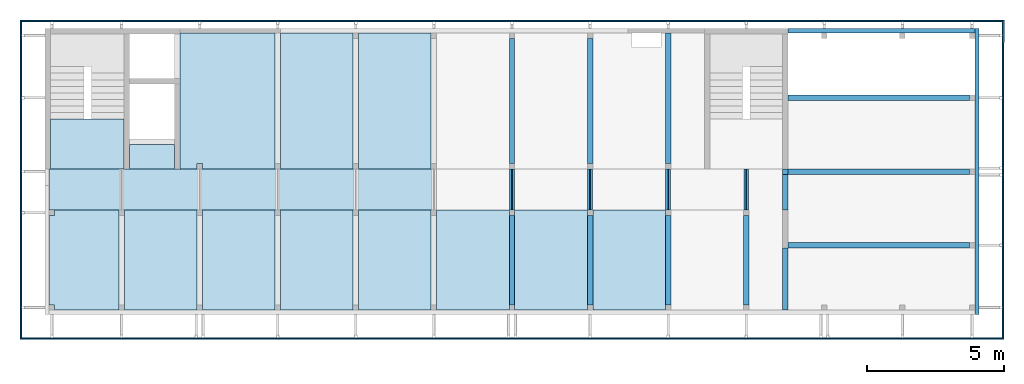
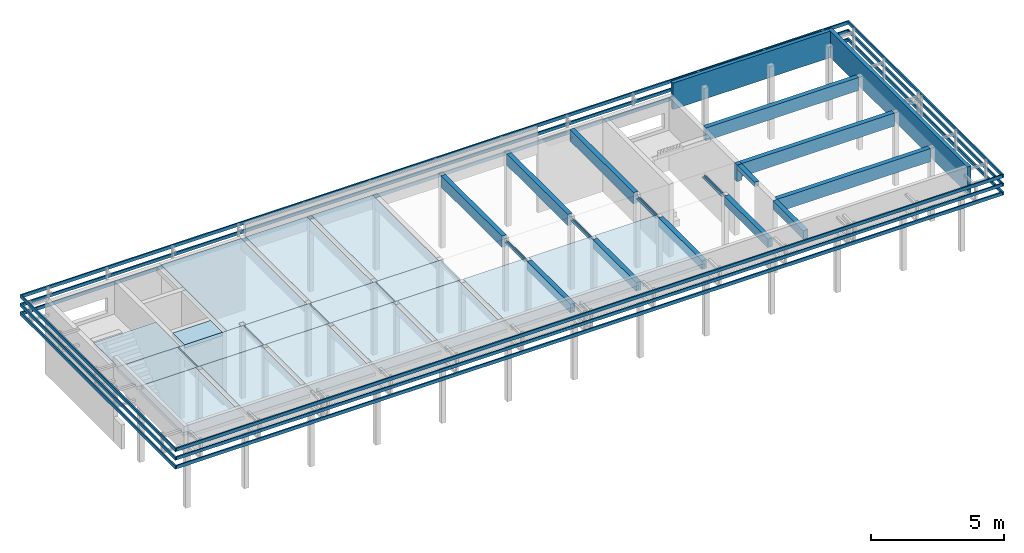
# One storey, part 2 of 44: 19 beams, 18 slabs, 12 members.
"""IFC4 building model written with IfcOpenShell, lengths in metres."""

from ifc_helpers import new_model, entity, si_unit, converted_unit, derived_unit, frame, frame_2d, origin, origin_with_axes, place, context, subcontext, project, spatial, polyline, rectangle, outline, extrude, faceted_brep, material, element, save


model = new_model("IFC4")

# Units and contexts
model_context = context("Model", 3, precision=1e-05, world=origin())
plan_context = context("Plan", 2, precision=1e-05, world=origin())
body_context = subcontext(model_context, "Body", "Model", "MODEL_VIEW")
ifc_project = project(units=[si_unit("LENGTHUNIT", "METRE"), si_unit("AREAUNIT", "SQUARE_METRE"), si_unit("VOLUMEUNIT", "CUBIC_METRE"), si_unit("MASSUNIT", "GRAM", prefix="KILO"), converted_unit("PLANEANGLEUNIT", "DEGREE", entity("IfcPlaneAngleMeasure", 0.0174532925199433), si_unit("PLANEANGLEUNIT", "RADIAN"), dimensions=[0, 0, 0, 0, 0, 0, 0]), derived_unit("THERMALTRANSMITTANCEUNIT", [(si_unit("POWERUNIT", "WATT"), 1), (si_unit("THERMODYNAMICTEMPERATUREUNIT", "KELVIN"), -1), (si_unit("LENGTHUNIT", "METRE"), -2)]), derived_unit("VOLUMETRICFLOWRATEUNIT", [(si_unit("LENGTHUNIT", "METRE"), 3), (converted_unit("TIMEUNIT", "hour", entity("IfcTimeMeasure", 3600.0), si_unit("TIMEUNIT", "SECOND"), dimensions=[0, 0, 1, 0, 0, 0, 0]), -1), (si_unit("LENGTHUNIT", "METRE"), -1)])], contexts=[model_context, plan_context])

# Site, building, storey
site_placement = place(None, origin())
site = spatial("IfcSite", under=ifc_project, at=site_placement, Name="Site", CompositionType="ELEMENT")
building_placement = place(site_placement, origin())
building = spatial("IfcBuilding", under=site, at=building_placement, Name="Admin", CompositionType="ELEMENT")
storey_placement = place(building_placement, frame((0.0, 0.0, 3.25)))
storey = spatial("IfcBuildingStorey", under=building, at=storey_placement, Name="01-Etage1", CompositionType="ELEMENT", Elevation=3.25)

# Beams
ifc_material_1 = material(Name="GL24h")
beam_1_placement = place(storey_placement, frame((41.0098001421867, 21.989449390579, 2.84), z_axis=(0.0, 0.0, 1.0), x_axis=(0.0, -1.0, 0.0)))
element("IfcBeam", 1, at=beam_1_placement, inside=storey, material=ifc_material_1, Name="P 1.05", PredefinedType="NOTDEFINED", context=body_context, shape_type="SweptSolid", body=[
    extrude(rectangle(XDim=0.2, YDim=0.52, at=frame_2d((0.1, 0.26), x_axis=(1.0, 0.0))), frame((0.0, 0.0, 0.0), z_axis=(1.0, 0.0, 0.0), x_axis=(0.0, 1.0, 0.0)), (0.0, 0.0, 1.0), 4.59),
])
ifc_material_2 = material(Name="GL24h")
beam_2_placement = place(storey_placement, frame((43.8698001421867, 15.499449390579, 2.96), z_axis=(0.0, 0.0, 1.0), x_axis=(-4.45012698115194e-15, -1.0, 0.0)))
element("IfcBeam", 2, at=beam_2_placement, inside=storey, material=ifc_material_2, Name="P 1.14", PredefinedType="NOTDEFINED", context=body_context, shape_type="SweptSolid", body=[
    extrude(rectangle(XDim=0.2, YDim=0.4, at=frame_2d((0.1, 0.2), x_axis=(1.0, 0.0))), frame((0.0, 0.0, 0.0), z_axis=(1.0, 0.0, 0.0), x_axis=(0.0, 1.0, 0.0)), (0.0, 0.0, 1.0), 3.27),
])
ifc_material_3 = material(Name="GL24h")
beam_3_placement = place(storey_placement, frame((41.0098001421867, 15.499449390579, 2.96), z_axis=(0.0, 0.0, 1.0), x_axis=(-4.45012698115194e-15, -1.0, 0.0)))
element("IfcBeam", 3, at=beam_3_placement, inside=storey, material=ifc_material_3, Name="P 1.13", PredefinedType="NOTDEFINED", context=body_context, shape_type="SweptSolid", body=[
    extrude(rectangle(XDim=0.2, YDim=0.4, at=frame_2d((0.1, 0.2), x_axis=(1.0, 0.0))), frame((0.0, 0.0, 0.0), z_axis=(1.0, 0.0, 0.0), x_axis=(0.0, 1.0, 0.0)), (0.0, 0.0, 1.0), 3.27),
])
ifc_material_4 = material(Name="GL24h")
beam_4_placement = place(storey_placement, frame((46.7298001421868, 15.499449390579, 2.96), z_axis=(0.0, 0.0, 1.0), x_axis=(-4.45012698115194e-15, -1.0, 0.0)))
element("IfcBeam", 4, at=beam_4_placement, inside=storey, material=ifc_material_4, Name="P 1.15", PredefinedType="NOTDEFINED", context=body_context, shape_type="SweptSolid", body=[
    extrude(rectangle(XDim=0.2, YDim=0.4, at=frame_2d((0.1, 0.2), x_axis=(1.0, 0.0))), frame((0.0, 0.0, 0.0), z_axis=(1.0, 0.0, 0.0), x_axis=(0.0, 1.0, 0.0)), (0.0, 0.0, 1.0), 3.27),
])
ifc_material_5 = material(Name="S235")
beam_5_placement = place(storey_placement, frame((41.0198001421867, 17.199449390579, 3.186), z_axis=(0.0, 0.0, 1.0), x_axis=(0.0, -1.0, 0.0)))
element("IfcBeam", 5, at=beam_5_placement, inside=storey, material=ifc_material_5, Name="PM 1.06", PredefinedType="NOTDEFINED", context=body_context, shape_type="SweptSolid", body=[
    extrude(outline(polyline([(1.4210854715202e-17, 0.0), (0.014, 0.0), (0.014, 0.07075), (0.0142278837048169, 0.073354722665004), (0.0149046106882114, 0.075880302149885), (0.0160096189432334, 0.07825), (0.0175093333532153, 0.0803918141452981), (0.0193581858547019, 0.0822406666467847), (0.0215, 0.0837403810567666), (0.023869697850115, 0.0848453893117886), (0.0263952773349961, 0.0855221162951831), (0.029, 0.08575), (0.09, 0.08575), (0.09, 0.09425), (0.029, 0.09425), (0.0263952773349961, 0.0944778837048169), (0.023869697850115, 0.0951546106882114), (0.0215, 0.0962596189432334), (0.0193581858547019, 0.0977593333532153), (0.0175093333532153, 0.0996081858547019), (0.0160096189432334, 0.10175), (0.0149046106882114, 0.104119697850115), (0.0142278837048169, 0.106645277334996), (0.014, 0.10925), (0.014, 0.18), (0.0, 0.18), (1.4210854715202e-17, 0.0)])), frame((0.0, 0.18, 0.0), z_axis=(1.0, 0.0, 0.0), x_axis=(0.0, 0.0, 1.0)), (0.0, 0.0, 1.0), 1.5),
])
ifc_material_6 = material(Name="S235")
beam_6_placement = place(storey_placement, frame((43.8798001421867, 17.199449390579, 3.186), z_axis=(0.0, 0.0, 1.0), x_axis=(0.0, -1.0, 0.0)))
element("IfcBeam", 6, at=beam_6_placement, inside=storey, material=ifc_material_6, Name="PM 1.07", PredefinedType="NOTDEFINED", context=body_context, shape_type="SweptSolid", body=[
    extrude(outline(polyline([(1.4210854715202e-17, 0.0), (0.014, 0.0), (0.014, 0.07075), (0.0142278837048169, 0.073354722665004), (0.0149046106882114, 0.075880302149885), (0.0160096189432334, 0.07825), (0.0175093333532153, 0.0803918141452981), (0.0193581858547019, 0.0822406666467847), (0.0215, 0.0837403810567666), (0.023869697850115, 0.0848453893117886), (0.0263952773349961, 0.0855221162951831), (0.029, 0.08575), (0.09, 0.08575), (0.09, 0.09425), (0.029, 0.09425), (0.0263952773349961, 0.0944778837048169), (0.023869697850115, 0.0951546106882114), (0.0215, 0.0962596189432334), (0.0193581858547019, 0.0977593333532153), (0.0175093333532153, 0.0996081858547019), (0.0160096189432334, 0.10175), (0.0149046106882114, 0.104119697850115), (0.0142278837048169, 0.106645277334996), (0.014, 0.10925), (0.014, 0.18), (0.0, 0.18), (1.4210854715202e-17, 0.0)])), frame((0.0, 0.18, 0.0), z_axis=(1.0, 0.0, 0.0), x_axis=(0.0, 0.0, 1.0)), (0.0, 0.0, 1.0), 1.5),
])
ifc_material_7 = material(Name="GL24h")
beam_7_placement = place(storey_placement, frame((51.21980059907, 17.009449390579, 2.76)))
element("IfcBeam", 7, at=beam_7_placement, inside=storey, material=ifc_material_7, Name="P 1.19", PredefinedType="NOTDEFINED", context=body_context, shape_type="SweptSolid", body=[
    extrude(rectangle(XDim=0.2, YDim=0.6, at=frame_2d((0.1, 0.3), x_axis=(1.0, 0.0))), frame((0.0, 0.0, 0.0), z_axis=(1.0, 0.0, 0.0), x_axis=(0.0, 1.0, 0.0)), (0.0, 0.0, 1.0), 6.63999954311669),
])
ifc_material_8 = material(Name="GL24h")
beam_8_placement = place(storey_placement, frame((51.21980059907, 19.709449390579, 2.76)))
element("IfcBeam", 8, at=beam_8_placement, inside=storey, material=ifc_material_8, Name="P 1.18", PredefinedType="NOTDEFINED", context=body_context, shape_type="SweptSolid", body=[
    extrude(rectangle(XDim=0.2, YDim=0.6, at=frame_2d((0.1, 0.3), x_axis=(1.0, 0.0))), frame((0.0, 0.0, 0.0), z_axis=(1.0, 0.0, 0.0), x_axis=(0.0, 1.0, 0.0)), (0.0, 0.0, 1.0), 6.63999954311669),
])
ifc_material_9 = material(Name="S235")
beam_9_placement = place(storey_placement, frame((46.7398001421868, 17.199449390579, 3.186), z_axis=(0.0, 0.0, 1.0), x_axis=(0.0, -1.0, 0.0)))
element("IfcBeam", 9, at=beam_9_placement, inside=storey, material=ifc_material_9, Name="PM 1.08", PredefinedType="NOTDEFINED", context=body_context, shape_type="SweptSolid", body=[
    extrude(outline(polyline([(1.4210854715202e-17, 0.0), (0.014, 0.0), (0.014, 0.07075), (0.0142278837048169, 0.073354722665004), (0.0149046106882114, 0.075880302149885), (0.0160096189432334, 0.07825), (0.0175093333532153, 0.0803918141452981), (0.0193581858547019, 0.0822406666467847), (0.0215, 0.0837403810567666), (0.023869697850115, 0.0848453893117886), (0.0263952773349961, 0.0855221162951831), (0.029, 0.08575), (0.09, 0.08575), (0.09, 0.09425), (0.029, 0.09425), (0.0263952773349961, 0.0944778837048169), (0.023869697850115, 0.0951546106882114), (0.0215, 0.0962596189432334), (0.0193581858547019, 0.0977593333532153), (0.0175093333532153, 0.0996081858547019), (0.0160096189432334, 0.10175), (0.0149046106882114, 0.104119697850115), (0.0142278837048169, 0.106645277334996), (0.014, 0.10925), (0.014, 0.18), (0.0, 0.18), (1.4210854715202e-17, 0.0)])), frame((0.0, 0.18, 0.0), z_axis=(1.0, 0.0, 0.0), x_axis=(0.0, 0.0, 1.0)), (0.0, 0.0, 1.0), 1.5),
])
ifc_material_10 = material(Name="S235")
beam_10_placement = place(storey_placement, frame((49.5998001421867, 17.199449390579, 3.186), z_axis=(0.0, 0.0, 1.0), x_axis=(0.0, -1.0, 0.0)))
element("IfcBeam", 10, at=beam_10_placement, inside=storey, material=ifc_material_10, Name="PM 1.09", PredefinedType="NOTDEFINED", context=body_context, shape_type="SweptSolid", body=[
    extrude(outline(polyline([(1.4210854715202e-17, 0.0), (0.014, 0.0), (0.014, 0.07075), (0.0142278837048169, 0.073354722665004), (0.0149046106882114, 0.075880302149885), (0.0160096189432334, 0.07825), (0.0175093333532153, 0.0803918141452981), (0.0193581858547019, 0.0822406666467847), (0.0215, 0.0837403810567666), (0.023869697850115, 0.0848453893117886), (0.0263952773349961, 0.0855221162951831), (0.029, 0.08575), (0.09, 0.08575), (0.09, 0.09425), (0.029, 0.09425), (0.0263952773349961, 0.0944778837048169), (0.023869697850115, 0.0951546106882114), (0.0215, 0.0962596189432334), (0.0193581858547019, 0.0977593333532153), (0.0175093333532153, 0.0996081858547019), (0.0160096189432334, 0.10175), (0.0149046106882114, 0.104119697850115), (0.0142278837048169, 0.106645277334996), (0.014, 0.10925), (0.014, 0.18), (0.0, 0.18), (1.4210854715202e-17, 0.0)])), frame((0.0, 0.18, 0.0), z_axis=(1.0, 0.0, 0.0), x_axis=(0.0, 0.0, 1.0)), (0.0, 0.0, 1.0), 1.5),
])
ifc_material_11 = material(Name="GL24h")
beam_11_placement = place(storey_placement, frame((49.5898001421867, 15.499449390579, 2.96), z_axis=(0.0, 0.0, 1.0), x_axis=(-4.45012698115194e-15, -1.0, 0.0)))
element("IfcBeam", 11, at=beam_11_placement, inside=storey, material=ifc_material_11, Name="P 1.16", PredefinedType="NOTDEFINED", context=body_context, shape_type="SweptSolid", body=[
    extrude(rectangle(XDim=0.2, YDim=0.4, at=frame_2d((0.1, 0.2), x_axis=(1.0, 0.0))), frame((0.0, 0.0, 0.0), z_axis=(1.0, 0.0, 0.0), x_axis=(0.0, 1.0, 0.0)), (0.0, 0.0, 1.0), 3.27),
])
ifc_material_12 = material(Name="C30/37")
beam_12_placement = place(storey_placement, frame((51.01980059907, 17.009449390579, 3.16), z_axis=(0.0, 0.0, 1.0), x_axis=(0.0, -1.0, 0.0)))
element("IfcBeam", 12, at=beam_12_placement, inside=storey, material=ifc_material_12, Name="P BA 1.02", PredefinedType="NOTDEFINED", context=body_context, shape_type="SweptSolid", body=[
    extrude(rectangle(XDim=0.2, YDim=0.2, at=frame_2d((0.1, 0.1), x_axis=(1.0, 0.0))), frame((0.0, 0.0, 0.0), z_axis=(1.0, 0.0, 0.0), x_axis=(0.0, 1.0, 0.0)), (0.0, 0.0, 1.0), 1.31),
])
ifc_material_13 = material(Name="GL24h")
beam_13_placement = place(storey_placement, frame((51.21980059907, 14.309449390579, 2.76)))
element("IfcBeam", 13, at=beam_13_placement, inside=storey, material=ifc_material_13, Name="P 1.20", PredefinedType="NOTDEFINED", context=body_context, shape_type="SweptSolid", body=[
    extrude(rectangle(XDim=0.2, YDim=0.6, at=frame_2d((0.1, 0.3), x_axis=(1.0, 0.0))), frame((0.0, 0.0, 0.0), z_axis=(1.0, 0.0, 0.0), x_axis=(0.0, 1.0, 0.0)), (0.0, 0.0, 1.0), 6.63999954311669),
])
ifc_material_14 = material(Name="GL24h")
beam_14_placement = place(storey_placement, frame((51.01980059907, 14.309449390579, 2.96), z_axis=(0.0, 0.0, 1.0), x_axis=(0.0, -1.0, 0.0)))
element("IfcBeam", 14, at=beam_14_placement, inside=storey, material=ifc_material_14, Name="P 1.17", PredefinedType="NOTDEFINED", context=body_context, shape_type="SweptSolid", body=[
    extrude(rectangle(XDim=0.2, YDim=0.4, at=frame_2d((0.1, 0.2), x_axis=(1.0, 0.0))), frame((0.0, 0.0, 0.0), z_axis=(1.0, 0.0, 0.0), x_axis=(0.0, 1.0, 0.0)), (0.0, 0.0, 1.0), 2.28),
])
ifc_material_15 = material(Name="CLT")
beam_15_placement = place(storey_placement, frame((58.0598001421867, 22.349449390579, 2.7), z_axis=(0.0, 0.0, 1.0), x_axis=(-1.38854152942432e-15, -1.0, 0.0)))
element("IfcBeam", 15, at=beam_15_placement, inside=storey, material=ifc_material_15, Name="Poutre CLT Axe 2.M R+1", PredefinedType="NOTDEFINED", context=body_context, shape_type="SweptSolid", body=[
    extrude(rectangle(XDim=0.160000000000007, YDim=1.22, at=frame_2d((0.0800000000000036, 0.61), x_axis=(1.0, 0.0))), frame((0.0, 0.0, 0.0), z_axis=(1.0, 0.0, 0.0), x_axis=(0.0, 1.0, 0.0)), (0.0, 0.0, 1.0), 10.48),
])
ifc_material_16 = material(Name="CLT")
beam_16_placement = place(storey_placement, frame((51.21980059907, 22.189449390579, 2.7)))
element("IfcBeam", 16, at=beam_16_placement, inside=storey, material=ifc_material_16, Name="Poutre CLT Axe 2.6 R+1", PredefinedType="NOTDEFINED", context=body_context, shape_type="SweptSolid", body=[
    extrude(rectangle(XDim=0.16, YDim=1.22, at=frame_2d((0.08, 0.61), x_axis=(1.0, 0.0))), frame((0.0, 0.0, 0.0), z_axis=(1.0, 0.0, 0.0), x_axis=(0.0, 1.0, 0.0)), (0.0, 0.0, 1.0), 6.83999954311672),
])

# Members
ifc_material_17 = material(Name="C24")
member_1_placement = place(storey_placement, frame((23.1498005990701, 22.5994493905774, 3.23)))
element("IfcMember", 17, at=member_1_placement, inside=storey, material=ifc_material_17, Name="Bandeau R+1", context=body_context, shape_type="Brep", body=[
    faceted_brep([(35.9199995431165, 0.0, 0.0), (0.0, 0.0, 0.0), (0.0, 0.0, 0.14), (35.9199995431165, 0.0, 0.14), (0.0, 0.06, 0.0), (0.0, 0.06, 0.14), (35.9199995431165, 0.06, 0.0), (35.9199995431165, 0.06, 0.14)], [[[0, 1, 2, 3]], [[1, 4, 5, 2]], [[4, 6, 7, 5]], [[6, 0, 3, 7]], [[7, 3, 2, 5]], [[0, 6, 4, 1]]], orient=[[False], [False], [False], [False], [False], [False]]),
])
ifc_material_18 = material(Name="C24")
member_2_placement = place(storey_placement, frame((23.1498005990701, 22.5994493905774, 2.82)))
element("IfcMember", 18, at=member_2_placement, inside=storey, material=ifc_material_18, Name="Bandeau R+1", context=body_context, shape_type="Brep", body=[
    faceted_brep([(35.9199995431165, 0.0, 0.0), (0.0, 0.0, 0.0), (0.0, 0.0, 0.15), (35.9199995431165, 0.0, 0.15), (0.0, 0.06, 0.0), (0.0, 0.06, 0.15), (35.9199995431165, 0.06, 0.0), (35.9199995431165, 0.06, 0.15)], [[[0, 1, 2, 3]], [[1, 4, 5, 2]], [[4, 6, 7, 5]], [[6, 0, 3, 7]], [[7, 3, 2, 5]], [[0, 6, 4, 1]]], orient=[[False], [False], [False], [False], [False], [False]]),
])
ifc_material_19 = material(Name="C24")
member_3_placement = place(storey_placement, frame((23.1498005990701, 22.5994493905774, 3.62)))
element("IfcMember", 19, at=member_3_placement, inside=storey, material=ifc_material_19, Name="Bandeau R+1", context=body_context, shape_type="Brep", body=[
    faceted_brep([(35.9199995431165, 0.0, 0.0), (0.0, 0.0, 0.0), (0.0, 0.0, 0.15), (35.9199995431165, 0.0, 0.15), (0.0, 0.06, 0.0), (0.0, 0.06, 0.15), (35.9199995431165, 0.06, 0.0), (35.9199995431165, 0.06, 0.15)], [[[0, 1, 2, 3]], [[1, 4, 5, 2]], [[4, 6, 7, 5]], [[6, 0, 3, 7]], [[7, 3, 2, 5]], [[0, 6, 4, 1]]], orient=[[False], [False], [False], [False], [False], [False]]),
])
ifc_material_20 = material(Name="C24")
member_4_placement = place(storey_placement, frame((23.1498005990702, 10.9594493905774, 3.23)))
element("IfcMember", 20, at=member_4_placement, inside=storey, material=ifc_material_20, Name="Bandeau R+1", context=body_context, shape_type="Brep", body=[
    faceted_brep([(35.9199995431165, 0.0, 0.0), (0.0, 0.0, 0.0), (0.0, 0.0, 0.14), (35.9199995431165, 0.0, 0.14), (0.0, 0.06, 0.0), (0.0, 0.06, 0.14), (35.9199995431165, 0.06, 0.0), (35.9199995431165, 0.06, 0.14)], [[[0, 1, 2, 3]], [[1, 4, 5, 2]], [[4, 6, 7, 5]], [[6, 0, 3, 7]], [[7, 3, 2, 5]], [[0, 6, 4, 1]]], orient=[[False], [False], [False], [False], [False], [False]]),
])
ifc_material_21 = material(Name="C24")
member_5_placement = place(storey_placement, frame((23.1498005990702, 10.9594493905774, 2.82)))
element("IfcMember", 21, at=member_5_placement, inside=storey, material=ifc_material_21, Name="Bandeau R+1", context=body_context, shape_type="Brep", body=[
    faceted_brep([(35.9199995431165, 0.0, 0.0), (0.0, 0.0, 0.0), (0.0, 0.0, 0.15), (35.9199995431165, 0.0, 0.15), (0.0, 0.06, 0.0), (0.0, 0.06, 0.15), (35.9199995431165, 0.06, 0.0), (35.9199995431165, 0.06, 0.15)], [[[0, 1, 2, 3]], [[1, 4, 5, 2]], [[4, 6, 7, 5]], [[6, 0, 3, 7]], [[7, 3, 2, 5]], [[0, 6, 4, 1]]], orient=[[False], [False], [False], [False], [False], [False]]),
])
ifc_material_22 = material(Name="C24")
member_6_placement = place(storey_placement, frame((23.1498005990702, 10.9594493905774, 3.62)))
element("IfcMember", 22, at=member_6_placement, inside=storey, material=ifc_material_22, Name="Bandeau R+1", context=body_context, shape_type="Brep", body=[
    faceted_brep([(35.9199995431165, 0.0, 0.0), (0.0, 0.0, 0.0), (0.0, 0.0, 0.15), (35.9199995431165, 0.0, 0.15), (0.0, 0.06, 0.0), (0.0, 0.06, 0.15), (35.9199995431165, 0.06, 0.0), (35.9199995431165, 0.06, 0.15)], [[[0, 1, 2, 3]], [[1, 4, 5, 2]], [[4, 6, 7, 5]], [[6, 0, 3, 7]], [[7, 3, 2, 5]], [[0, 6, 4, 1]]], orient=[[False], [False], [False], [False], [False], [False]]),
])
ifc_material_23 = material(Name="C24")
member_7_placement = place(storey_placement, frame((59.0698001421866, 10.9594493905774, 3.62)))
element("IfcMember", 23, at=member_7_placement, inside=storey, material=ifc_material_23, Name="Bandeau R+1", context=body_context, shape_type="Brep", body=[
    faceted_brep([(0.0, 1.81898940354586e-15, 0.0), (2.91038304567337e-14, 11.7, 0.0), (2.91038304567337e-14, 11.7, 0.15), (0.0, 1.81898940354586e-15, 0.15), (0.0600000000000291, 11.7, 0.0), (0.0600000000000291, 11.7, 0.15), (0.06, 1.81898940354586e-15, 0.0), (0.06, 1.81898940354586e-15, 0.15)], [[[0, 1, 2, 3]], [[1, 4, 5, 2]], [[4, 6, 7, 5]], [[6, 0, 3, 7]], [[7, 3, 2, 5]], [[0, 6, 4, 1]]], orient=[[False], [False], [False], [False], [False], [False]]),
])
ifc_material_24 = material(Name="C24")
member_8_placement = place(storey_placement, frame((59.0698001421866, 10.9594493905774, 2.82)))
element("IfcMember", 24, at=member_8_placement, inside=storey, material=ifc_material_24, Name="Bandeau R+1", context=body_context, shape_type="Brep", body=[
    faceted_brep([(0.0, 1.81898940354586e-15, 0.0), (2.91038304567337e-14, 11.7, 0.0), (2.91038304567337e-14, 11.7, 0.15), (0.0, 1.81898940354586e-15, 0.15), (0.0600000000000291, 11.7, 0.0), (0.0600000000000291, 11.7, 0.15), (0.06, 1.81898940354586e-15, 0.0), (0.06, 1.81898940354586e-15, 0.15)], [[[0, 1, 2, 3]], [[1, 4, 5, 2]], [[4, 6, 7, 5]], [[6, 0, 3, 7]], [[7, 3, 2, 5]], [[0, 6, 4, 1]]], orient=[[False], [False], [False], [False], [False], [False]]),
])
ifc_material_25 = material(Name="C24")
member_9_placement = place(storey_placement, frame((59.0698001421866, 10.9594493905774, 3.23)))
element("IfcMember", 25, at=member_9_placement, inside=storey, material=ifc_material_25, Name="Bandeau R+1", context=body_context, shape_type="Brep", body=[
    faceted_brep([(0.0, 1.81898940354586e-15, 0.0), (2.91038304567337e-14, 11.7, 0.0), (2.91038304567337e-14, 11.7, 0.14), (0.0, 1.81898940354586e-15, 0.14), (0.0600000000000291, 11.7, 0.0), (0.0600000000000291, 11.7, 0.14), (0.06, 1.81898940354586e-15, 0.0), (0.06, 1.81898940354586e-15, 0.14)], [[[0, 1, 2, 3]], [[1, 4, 5, 2]], [[4, 6, 7, 5]], [[6, 0, 3, 7]], [[7, 3, 2, 5]], [[0, 6, 4, 1]]], orient=[[False], [False], [False], [False], [False], [False]]),
])

# Beam
ifc_material_26 = material(Name="C30/37")
beam_17_placement = place(storey_placement, frame((51.01980059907, 17.199449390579, 2.6), z_axis=(0.0, 0.0, 1.0), x_axis=(0.0, -1.0, 0.0)))
element("IfcBeam", 26, at=beam_17_placement, inside=storey, material=ifc_material_26, Name="Bandeau R+1", PredefinedType="NOTDEFINED", context=body_context, shape_type="SweptSolid", body=[
    extrude(rectangle(XDim=0.2, YDim=0.76, at=frame_2d((0.1, 0.38), x_axis=(1.0, 0.0))), frame((0.0, 0.0, 0.0), z_axis=(1.0, 0.0, 0.0), x_axis=(0.0, 1.0, 0.0)), (0.0, 0.0, 1.0), 0.19),
])

# Members
ifc_material_27 = material(Name="C24")
member_10_placement = place(storey_placement, frame((23.0898005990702, 10.9594493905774, 2.82)))
element("IfcMember", 27, at=member_10_placement, inside=storey, material=ifc_material_27, Name="Bandeau R+1", context=body_context, shape_type="Brep", body=[
    faceted_brep([(0.0, 1.81898940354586e-15, 0.0), (1.45519152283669e-14, 11.7, 0.0), (1.45519152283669e-14, 11.7, 0.15), (0.0, 1.81898940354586e-15, 0.15), (0.0600000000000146, 11.7, 0.0), (0.0600000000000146, 11.7, 0.15), (0.06, 1.81898940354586e-15, 0.0), (0.06, 1.81898940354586e-15, 0.15)], [[[0, 1, 2, 3]], [[1, 4, 5, 2]], [[4, 6, 7, 5]], [[6, 0, 3, 7]], [[7, 3, 2, 5]], [[0, 6, 4, 1]]], orient=[[False], [False], [False], [False], [False], [False]]),
])
ifc_material_28 = material(Name="C24")
member_11_placement = place(storey_placement, frame((23.0898005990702, 10.9594493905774, 3.23)))
element("IfcMember", 28, at=member_11_placement, inside=storey, material=ifc_material_28, Name="Bandeau R+1", context=body_context, shape_type="Brep", body=[
    faceted_brep([(0.0, 1.81898940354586e-15, 0.0), (1.45519152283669e-14, 11.7, 0.0), (1.45519152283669e-14, 11.7, 0.14), (0.0, 1.81898940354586e-15, 0.14), (0.0600000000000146, 11.7, 0.0), (0.0600000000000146, 11.7, 0.14), (0.06, 1.81898940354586e-15, 0.0), (0.06, 1.81898940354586e-15, 0.14)], [[[0, 1, 2, 3]], [[1, 4, 5, 2]], [[4, 6, 7, 5]], [[6, 0, 3, 7]], [[7, 3, 2, 5]], [[0, 6, 4, 1]]], orient=[[False], [False], [False], [False], [False], [False]]),
])
ifc_material_29 = material(Name="C24")
member_12_placement = place(storey_placement, frame((23.0898005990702, 10.9594493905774, 3.62)))
element("IfcMember", 29, at=member_12_placement, inside=storey, material=ifc_material_29, Name="Bandeau R+1", context=body_context, shape_type="Brep", body=[
    faceted_brep([(0.0, 1.81898940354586e-15, 0.0), (1.45519152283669e-14, 11.7, 0.0), (1.45519152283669e-14, 11.7, 0.15), (0.0, 1.81898940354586e-15, 0.15), (0.0600000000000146, 11.7, 0.0), (0.0600000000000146, 11.7, 0.15), (0.06, 1.81898940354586e-15, 0.0), (0.06, 1.81898940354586e-15, 0.15)], [[[0, 1, 2, 3]], [[1, 4, 5, 2]], [[4, 6, 7, 5]], [[6, 0, 3, 7]], [[7, 3, 2, 5]], [[0, 6, 4, 1]]], orient=[[False], [False], [False], [False], [False], [False]]),
])

# Beams
ifc_material_30 = material(Name="GL24h")
beam_18_placement = place(storey_placement, frame((46.7298001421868, 22.189449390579, 2.84), z_axis=(0.0, 0.0, 1.0), x_axis=(0.0, -1.0, 0.0)))
element("IfcBeam", 30, at=beam_18_placement, inside=storey, material=ifc_material_30, Name="P 1.07", PredefinedType="NOTDEFINED", context=body_context, shape_type="SweptSolid", body=[
    extrude(rectangle(XDim=0.2, YDim=0.52, at=frame_2d((0.1, 0.26), x_axis=(1.0, 0.0))), frame((0.0, 0.0, 0.0), z_axis=(1.0, 0.0, 0.0), x_axis=(0.0, 1.0, 0.0)), (0.0, 0.0, 1.0), 4.79),
])
ifc_material_31 = material(Name="GL24h")
beam_19_placement = place(storey_placement, frame((43.8698001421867, 21.989449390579, 2.84), z_axis=(0.0, 0.0, 1.0), x_axis=(0.0, -1.0, 0.0)))
element("IfcBeam", 31, at=beam_19_placement, inside=storey, material=ifc_material_31, Name="P 1.06", PredefinedType="NOTDEFINED", context=body_context, shape_type="SweptSolid", body=[
    extrude(rectangle(XDim=0.2, YDim=0.52, at=frame_2d((0.1, 0.26), x_axis=(1.0, 0.0))), frame((0.0, 0.0, 0.0), z_axis=(1.0, 0.0, 0.0), x_axis=(0.0, 1.0, 0.0)), (0.0, 0.0, 1.0), 4.59),
])

# Slabs
ifc_material_32 = material(Name="CLT")
slab_1_placement = place(storey_placement, frame((35.4898001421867, 12.029449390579, 3.2)))
element("IfcSlab", 32, at=slab_1_placement, inside=storey, material=ifc_material_32, Name="CLT ép. 16 cm", PredefinedType="FLOOR", context=body_context, shape_type="SweptSolid", body=[
    extrude(rectangle(XDim=2.66000000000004, YDim=3.67, at=frame_2d((1.33000000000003, 1.835), x_axis=(1.0, 0.0))), origin_with_axes(), (0.0, 0.0, 1.0), 0.16),
])
ifc_material_33 = material(Name="CLT")
slab_2_placement = place(storey_placement, frame((29.6898001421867, 15.699449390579, 3.2)))
element("IfcSlab", 33, at=slab_2_placement, inside=storey, material=ifc_material_33, Name="CLT ép. 16 cm", PredefinedType="FLOOR", context=body_context, shape_type="SweptSolid", body=[
    extrude(rectangle(XDim=2.82, YDim=1.5, at=frame_2d((-1.41, -0.75), x_axis=(-1.0, 0.0))), frame((2.82, 1.5, 0.0), z_axis=(0.0, 0.0, 1.0), x_axis=(1.0, 0.0, 0.0)), (0.0, 0.0, 1.0), 0.16),
])
ifc_material_34 = material(Name="CLT")
slab_3_placement = place(storey_placement, frame((32.5498001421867, 15.699449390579, 3.2)))
element("IfcSlab", 34, at=slab_3_placement, inside=storey, material=ifc_material_34, Name="CLT ép. 16 cm", PredefinedType="FLOOR", context=body_context, shape_type="SweptSolid", body=[
    extrude(rectangle(XDim=2.82000000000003, YDim=1.5, at=frame_2d((-1.41000000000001, -0.75), x_axis=(-1.0, 0.0))), frame((2.82000000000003, 1.5, 0.0), z_axis=(0.0, 0.0, 1.0), x_axis=(1.0, 0.0, 0.0)), (0.0, 0.0, 1.0), 0.16),
])
ifc_material_35 = material(Name="CLT")
slab_4_placement = place(storey_placement, frame((35.4098001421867, 15.699449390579, 3.2)))
element("IfcSlab", 35, at=slab_4_placement, inside=storey, material=ifc_material_35, Name="CLT ép. 16 cm", PredefinedType="FLOOR", context=body_context, shape_type="SweptSolid", body=[
    extrude(rectangle(XDim=2.82000000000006, YDim=1.5, at=frame_2d((-1.41000000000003, -0.75), x_axis=(-1.0, 0.0))), frame((2.82000000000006, 1.5, 0.0), z_axis=(0.0, 0.0, 1.0), x_axis=(1.0, 0.0, 0.0)), (0.0, 0.0, 1.0), 0.16),
])
ifc_material_36 = material(Name="CLT")
slab_5_placement = place(storey_placement, frame((32.6298001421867, 12.029449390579, 3.2)))
element("IfcSlab", 36, at=slab_5_placement, inside=storey, material=ifc_material_36, Name="CLT ép. 16 cm", PredefinedType="FLOOR", context=body_context, shape_type="SweptSolid", body=[
    extrude(rectangle(XDim=2.66000000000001, YDim=3.67, at=frame_2d((1.33000000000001, 1.835), x_axis=(1.0, 0.0))), origin_with_axes(), (0.0, 0.0, 1.0), 0.16),
])
ifc_material_37 = material(Name="CLT")
slab_6_placement = place(storey_placement, frame((29.7698001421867, 12.029449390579, 3.2)))
element("IfcSlab", 37, at=slab_6_placement, inside=storey, material=ifc_material_37, Name="CLT ép. 16 cm", PredefinedType="FLOOR", context=body_context, shape_type="SweptSolid", body=[
    extrude(rectangle(XDim=2.65999999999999, YDim=3.67, at=frame_2d((1.33, 1.835), x_axis=(1.0, 0.0))), origin_with_axes(), (0.0, 0.0, 1.0), 0.16),
])
ifc_material_38 = material(Name="CLT")
slab_7_placement = place(storey_placement, frame((44.0698001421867, 12.029449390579, 3.2)))
element("IfcSlab", 38, at=slab_7_placement, inside=storey, material=ifc_material_38, Name="CLT ép. 16 cm", PredefinedType="FLOOR", context=body_context, shape_type="SweptSolid", body=[
    extrude(rectangle(XDim=2.66000000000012, YDim=3.67, at=frame_2d((1.33000000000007, 1.835), x_axis=(1.0, 0.0))), origin_with_axes(), (0.0, 0.0, 1.0), 0.16),
])
ifc_material_39 = material(Name="CLT")
slab_8_placement = place(storey_placement, frame((38.3498001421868, 12.029449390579, 3.2)))
element("IfcSlab", 39, at=slab_8_placement, inside=storey, material=ifc_material_39, Name="CLT ép. 16 cm", PredefinedType="FLOOR", context=body_context, shape_type="SweptSolid", body=[
    extrude(rectangle(XDim=2.65999999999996, YDim=3.67, at=frame_2d((1.32999999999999, 1.835), x_axis=(1.0, 0.0))), origin_with_axes(), (0.0, 0.0, 1.0), 0.16),
])
ifc_material_40 = material(Name="CLT")
slab_9_placement = place(storey_placement, frame((41.2098001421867, 12.029449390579, 3.2)))
element("IfcSlab", 40, at=slab_9_placement, inside=storey, material=ifc_material_40, Name="CLT ép. 16 cm", PredefinedType="FLOOR", context=body_context, shape_type="SweptSolid", body=[
    extrude(rectangle(XDim=2.65999999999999, YDim=3.67, at=frame_2d((1.33, 1.835), x_axis=(1.0, 0.0))), origin_with_axes(), (0.0, 0.0, 1.0), 0.16),
])
ifc_material_41 = material(Name="CLT")
slab_10_placement = place(storey_placement, frame((24.1598005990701, 12.029449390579, 3.2)))
element("IfcSlab", 41, at=slab_10_placement, inside=storey, material=ifc_material_41, Name="CLT ép. 16 cm", PredefinedType="FLOOR", context=body_context, shape_type="SweptSolid", body=[
    extrude(outline(polyline([(2.55000000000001, 3.67), (0.200000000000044, 3.67), (0.200000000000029, 3.46999999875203), (1.45519152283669e-14, 3.46999999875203), (0.0, 0.2), (0.200000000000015, 0.2), (0.200000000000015, 0.0), (2.55, 0.0), (2.55000000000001, 3.67)])), origin_with_axes(), (0.0, 0.0, 1.0), 0.16),
])
ifc_material_42 = material(Name="CLT")
slab_11_placement = place(storey_placement, frame((35.4898001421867, 17.199449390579, 3.2)))
element("IfcSlab", 42, at=slab_11_placement, inside=storey, material=ifc_material_42, Name="CLT ép. 16 cm", PredefinedType="FLOOR", context=body_context, shape_type="SweptSolid", body=[
    extrude(rectangle(XDim=4.99, YDim=2.66000000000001, at=frame_2d((1.33000000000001, -2.495), x_axis=(0.0, -1.0))), frame((0.0, 4.99, 0.0), z_axis=(0.0, 0.0, 1.0), x_axis=(1.0, 0.0, 0.0)), (0.0, 0.0, 1.0), 0.16),
])
ifc_material_43 = material(Name="CLT")
slab_12_placement = place(storey_placement, frame((32.6298001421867, 17.199449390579, 3.2)))
element("IfcSlab", 43, at=slab_12_placement, inside=storey, material=ifc_material_43, Name="CLT ép. 16 cm", PredefinedType="FLOOR", context=body_context, shape_type="SweptSolid", body=[
    extrude(rectangle(XDim=4.99, YDim=2.65999999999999, at=frame_2d((1.32999999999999, -2.495), x_axis=(0.0, -1.0))), frame((0.0, 4.99, 0.0), z_axis=(0.0, 0.0, 1.0), x_axis=(1.0, 0.0, 0.0)), (0.0, 0.0, 1.0), 0.16),
])
ifc_material_44 = material(Name="CLT")
slab_13_placement = place(storey_placement, frame((26.9098005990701, 12.029449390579, 3.2)))
element("IfcSlab", 44, at=slab_13_placement, inside=storey, material=ifc_material_44, Name="CLT ép. 16 cm", PredefinedType="FLOOR", context=body_context, shape_type="SweptSolid", body=[
    extrude(rectangle(XDim=3.67, YDim=2.65999954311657, at=frame_2d((1.32999977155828, -1.835), x_axis=(-3.96509951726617e-15, -1.0))), frame((1.45519152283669e-14, 3.67, 0.0), z_axis=(0.0, 0.0, 1.0), x_axis=(1.0, 0.0, 0.0)), (0.0, 0.0, 1.0), 0.16),
])
ifc_material_45 = material(Name="CLT")
slab_14_placement = place(storey_placement, frame((26.8298001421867, 15.699449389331, 3.2)))
element("IfcSlab", 45, at=slab_14_placement, inside=storey, material=ifc_material_45, Name="CLT ép. 16 cm", PredefinedType="FLOOR", context=body_context, shape_type="SweptSolid", body=[
    extrude(outline(polyline([(2.12002941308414, 1.49999440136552), (0.0, 1.5), (4.56883397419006e-07, 0.0), (2.82000000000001, 0.0), (2.82000000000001, 1.5), (2.56252091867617, 1.49999794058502), (2.12002941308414, 1.49999280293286), (2.12002941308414, 1.49999440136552)])), origin_with_axes(), (0.0, 0.0, 1.0), 0.16),
])
ifc_material_46 = material(Name="CLT")
slab_15_placement = place(storey_placement, frame((28.9498295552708, 17.1994421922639, 3.2)))
element("IfcSlab", 46, at=slab_15_placement, inside=storey, material=ifc_material_46, Name="CLT ép. 16 cm", PredefinedType="FLOOR", context=body_context, shape_type="SweptSolid", body=[
    extrude(outline(polyline([(3.47997058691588, 7.19831511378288e-06), (3.47997058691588, 4.99000719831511), (0.0, 4.99), (0.0, 0.0), (0.619970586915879, 7.19831511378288e-06), (0.619970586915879, 0.200007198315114), (0.819970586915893, 0.200007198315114), (0.819970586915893, 7.19831511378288e-06), (3.47997058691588, 7.19831511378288e-06)])), origin_with_axes(), (0.0, 0.0, 1.0), 0.16),
])
ifc_material_47 = material(Name="C30/37")
slab_16_placement = place(storey_placement, frame((27.0998290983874, 17.1994443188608, 3.2)))
element("IfcSlab", 47, at=slab_16_placement, inside=storey, material=ifc_material_47, Name="Dalle BA R+1", PredefinedType="FLOOR", context=body_context, shape_type="SweptSolid", body=[
    extrude(outline(polyline([(1.65000045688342, 0.0), (1.65000045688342, 0.899997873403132), (0.0, 0.899997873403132), (4.568834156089e-07, 0.799997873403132), (4.568834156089e-07, 4.35737147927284e-06), (1.65000045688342, 0.0)])), origin_with_axes(), (0.0, 0.0, 1.0), 0.16),
])
ifc_material_48 = material(Name="C30/37")
slab_17_placement = place(storey_placement, frame((24.1998005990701, 17.1994467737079, 3.2)))
element("IfcSlab", 48, at=slab_17_placement, inside=storey, material=ifc_material_48, Name="Escalier Préfab.", PredefinedType="FLOOR", context=body_context, shape_type="SweptSolid", body=[
    extrude(outline(polyline([(2.70002895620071, 1.82999680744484), (0.0, 1.83000400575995), (0.0, 2.61687114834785e-06), (2.5899995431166, 2.61687114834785e-06), (2.62999954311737, 0.0), (2.62999954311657, 2.61562317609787e-06), (2.70002895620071, 2.43068858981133e-06), (2.70002895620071, 1.82999680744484)])), origin_with_axes(), (0.0, 0.0, 1.0), 0.16),
])
ifc_material_49 = material(Name="CLT")
slab_18_placement = place(storey_placement, frame((24.1598005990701, 15.699449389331, 3.2)))
element("IfcSlab", 49, at=slab_18_placement, inside=storey, material=ifc_material_49, Name="CLT ép. 16 cm", PredefinedType="FLOOR", context=body_context, shape_type="SweptSolid", body=[
    extrude(outline(polyline([(2.63, 0.0), (2.6299995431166, 1.5), (0.0, 1.5), (0.0, 0.0), (2.63, 0.0)])), origin_with_axes(), (0.0, 0.0, 1.0), 0.16),
])

save(model, "model.ifc")
